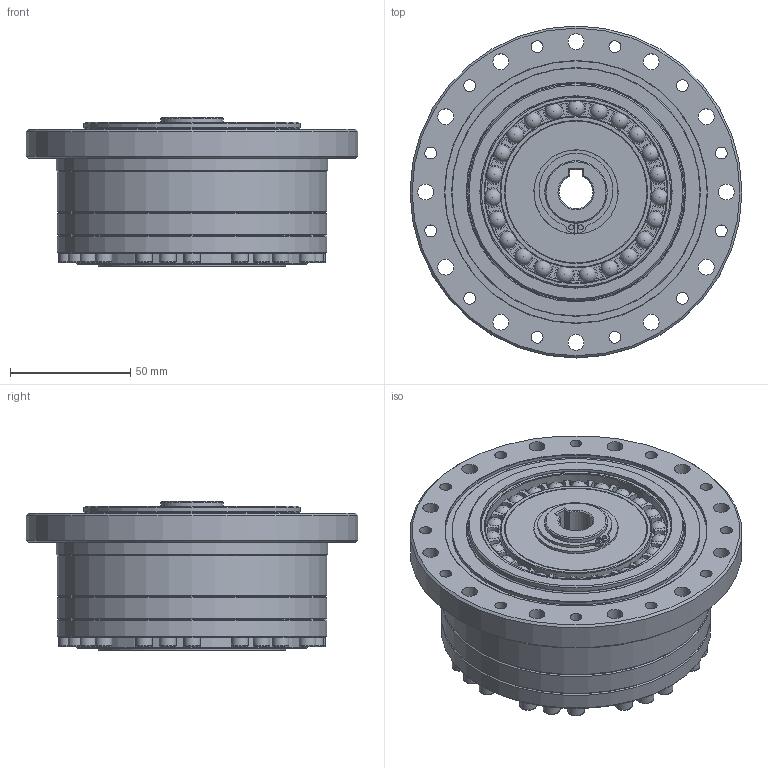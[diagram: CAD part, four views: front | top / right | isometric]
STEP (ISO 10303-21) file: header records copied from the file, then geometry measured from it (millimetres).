
FILE_DESCRIPTION(/* description */ (''),/* implementation_level */ '2;1');
FILE_NAME(/* name */ 'S:\TB00F\研發課二組\機密級\97.\X2\540C4EC151714EAB5340\X0\ (機密級)\H11\欣怡\2023專案追蹤\2.型錄\模型\\X2\5B987DB2\X0\3D檔(NEW)\DGC-PO\DGC-32-XX-PO.stp',/* time_stamp */ '2024-09-13T16:30:39+08:00',/* author */ ('bb1128.zheng'),/* organization */ (''),/* preprocessor_version */ 'ST-DEVELOPER v15.2',/* originating_system */ 'Autodesk Inventor 2014',/* authorisation */ '');
FILE_SCHEMA (('AUTOMOTIVE_DESIGN { 1 0 10303 214 3 1 1 }'));
Length unit declared in the file: centimetre
Products named in the file (1): DGC-32-XX-PO
Bounding box: 138 x 138 x 62 mm (x, y, z)
Volume: 505040.7 mm3; surface area: 99685.2 mm2
Topology: 1 solids, 17 shells, 878 faces, 2140 edges, 1336 vertices
Faces by surface type: plane 391, cylinder 239, cone 125, torus 100, sphere 23
Full cylindrical faces by diameter (mm): 2 x2, 4 x4, 4.917 x12, 5 x8, 6.6 x12, 6.647 x8, 7 x24, 8 x8, 8.376 x8, 9 x8, 13 x8, 20 x1, 21.494 x1, 24.9 x1, 26 x5, 26.1 x1, 26.5 x1, 35 x1, 51.402 x1, 54 x1, 58.93 x1, 63.04 x1, 68.6 x1, 74 x1, 75.82 x1, 78 x1, 79.69 x1, 79.75 x1, 90 x1, 92 x3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
Entity records: 22463 total; most frequent: CARTESIAN_POINT 4063, DIRECTION 4038, ORIENTED_EDGE 3348, AXIS2_PLACEMENT_3D 1731, EDGE_CURVE 1628, EDGE_LOOP 1334, VERTEX_POINT 1156, ADVANCED_FACE 878
